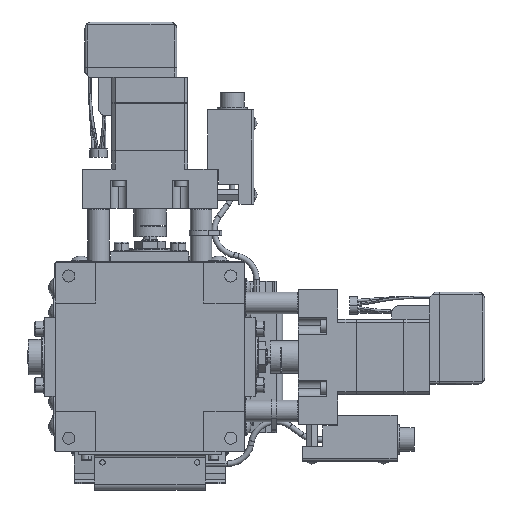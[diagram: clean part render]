
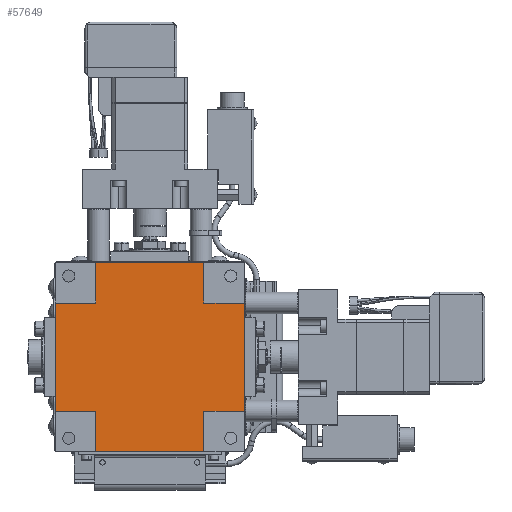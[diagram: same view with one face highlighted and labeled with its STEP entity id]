
A CAD part, front view. The second image highlights one B-rep face of the part: STEP entity #57649.
In plain terms, the highlighted planar face has unit normal (0, -1, 0).
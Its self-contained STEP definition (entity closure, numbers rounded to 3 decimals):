
#1156 = CARTESIAN_POINT ( 'NONE',  ( 35., 0.3, 20. ) ) ;
#1580 = VECTOR ( 'NONE', #33116, 1000. ) ;
#1645 = VECTOR ( 'NONE', #39755, 1000. ) ;
#2014 = VECTOR ( 'NONE', #33972, 1000. ) ;
#2263 = VERTEX_POINT ( 'NONE', #40069 ) ;
#3829 = AXIS2_PLACEMENT_3D ( 'NONE', #49785, #49003, #13114 ) ;
#4906 = DIRECTION ( 'NONE',  ( 1., 0., 0. ) ) ;
#5906 = VERTEX_POINT ( 'NONE', #1156 ) ;
#6582 = VERTEX_POINT ( 'NONE', #68687 ) ;
#6895 = CARTESIAN_POINT ( 'NONE',  ( 20., 0.3, -35. ) ) ;
#7094 = PLANE ( 'NONE',  #3829 ) ;
#7273 = EDGE_CURVE ( 'NONE', #2263, #44380, #61184, .T. ) ;
#8102 = EDGE_CURVE ( 'NONE', #47029, #77057, #47793, .T. ) ;
#9464 = CARTESIAN_POINT ( 'NONE',  ( -20., 0.3, 20. ) ) ;
#9603 = ORIENTED_EDGE ( 'NONE', *, *, #66793, .T. ) ;
#9952 = LINE ( 'NONE', #69222, #1580 ) ;
#10235 = ORIENTED_EDGE ( 'NONE', *, *, #36774, .T. ) ;
#12286 = DIRECTION ( 'NONE',  ( 0., 0., -1. ) ) ;
#12437 = ORIENTED_EDGE ( 'NONE', *, *, #25958, .T. ) ;
#12822 = LINE ( 'NONE', #68831, #59621 ) ;
#13114 = DIRECTION ( 'NONE',  ( -1., 0., 0. ) ) ;
#13618 = DIRECTION ( 'NONE',  ( 1., 0., 0. ) ) ;
#15701 = CARTESIAN_POINT ( 'NONE',  ( -35., 0.3, -20. ) ) ;
#15863 = CARTESIAN_POINT ( 'NONE',  ( 35., 0.3, -20. ) ) ;
#17541 = VECTOR ( 'NONE', #12286, 1000. ) ;
#18352 = LINE ( 'NONE', #28195, #27747 ) ;
#19928 = ORIENTED_EDGE ( 'NONE', *, *, #64306, .T. ) ;
#20743 = VECTOR ( 'NONE', #70317, 1000. ) ;
#21645 = CARTESIAN_POINT ( 'NONE',  ( -35., 0.3, 20. ) ) ;
#22622 = CARTESIAN_POINT ( 'NONE',  ( -20., 0.3, -35. ) ) ;
#22629 = EDGE_CURVE ( 'NONE', #59814, #44302, #49814, .T. ) ;
#24592 = CARTESIAN_POINT ( 'NONE',  ( -20., 0.3, -35. ) ) ;
#24600 = DIRECTION ( 'NONE',  ( 0., 0., 1. ) ) ;
#24995 = EDGE_CURVE ( 'NONE', #77428, #2263, #44730, .T. ) ;
#25958 = EDGE_CURVE ( 'NONE', #26047, #47029, #12822, .T. ) ;
#26047 = VERTEX_POINT ( 'NONE', #9464 ) ;
#27265 = DIRECTION ( 'NONE',  ( -1., 0., 0. ) ) ;
#27747 = VECTOR ( 'NONE', #4906, 1000. ) ;
#28128 = CARTESIAN_POINT ( 'NONE',  ( -20., 0.3, 35. ) ) ;
#28195 = CARTESIAN_POINT ( 'NONE',  ( -35., 0.3, -20. ) ) ;
#30852 = DIRECTION ( 'NONE',  ( 1., 0., 0. ) ) ;
#30888 = CARTESIAN_POINT ( 'NONE',  ( -35., 0.3, 20. ) ) ;
#30986 = EDGE_CURVE ( 'NONE', #54976, #6582, #44282, .T. ) ;
#32458 = ORIENTED_EDGE ( 'NONE', *, *, #66934, .T. ) ;
#33116 = DIRECTION ( 'NONE',  ( -1., 0., 0. ) ) ;
#33972 = DIRECTION ( 'NONE',  ( 0., 0., -1. ) ) ;
#34731 = ORIENTED_EDGE ( 'NONE', *, *, #49769, .T. ) ;
#36774 = EDGE_CURVE ( 'NONE', #77057, #59814, #18352, .T. ) ;
#39755 = DIRECTION ( 'NONE',  ( 0., 0., 1. ) ) ;
#39910 = ORIENTED_EDGE ( 'NONE', *, *, #24995, .T. ) ;
#40069 = CARTESIAN_POINT ( 'NONE',  ( 20., 0.3, 35. ) ) ;
#43641 = CARTESIAN_POINT ( 'NONE',  ( 20., 0.3, 20. ) ) ;
#44282 = LINE ( 'NONE', #49327, #77234 ) ;
#44302 = VERTEX_POINT ( 'NONE', #22622 ) ;
#44380 = VERTEX_POINT ( 'NONE', #28128 ) ;
#44730 = LINE ( 'NONE', #63775, #1645 ) ;
#45555 = CARTESIAN_POINT ( 'NONE',  ( -20., 0.3, -35. ) ) ;
#45960 = CARTESIAN_POINT ( 'NONE',  ( -20., 0.3, -20. ) ) ;
#45995 = LINE ( 'NONE', #61140, #56296 ) ;
#47029 = VERTEX_POINT ( 'NONE', #21645 ) ;
#47793 = LINE ( 'NONE', #30888, #59114 ) ;
#48176 = CARTESIAN_POINT ( 'NONE',  ( -20., 0.3, 20. ) ) ;
#49003 = DIRECTION ( 'NONE',  ( 0., 1., 0. ) ) ;
#49259 = ORIENTED_EDGE ( 'NONE', *, *, #77541, .T. ) ;
#49327 = CARTESIAN_POINT ( 'NONE',  ( 20., 0.3, -35. ) ) ;
#49769 = EDGE_CURVE ( 'NONE', #44302, #54976, #65248, .T. ) ;
#49785 = CARTESIAN_POINT ( 'NONE',  ( 0., 0.3, 0. ) ) ;
#49814 = LINE ( 'NONE', #45555, #2014 ) ;
#54505 = CARTESIAN_POINT ( 'NONE',  ( 35., 0.3, 20. ) ) ;
#54976 = VERTEX_POINT ( 'NONE', #6895 ) ;
#56296 = VECTOR ( 'NONE', #13618, 1000. ) ;
#57649 = ADVANCED_FACE ( 'NONE', ( #65777 ), #7094, .F. ) ;
#57897 = VECTOR ( 'NONE', #24600, 1000. ) ;
#59114 = VECTOR ( 'NONE', #61124, 1000. ) ;
#59621 = VECTOR ( 'NONE', #27265, 1000. ) ;
#59651 = ORIENTED_EDGE ( 'NONE', *, *, #30986, .T. ) ;
#59814 = VERTEX_POINT ( 'NONE', #45960 ) ;
#61124 = DIRECTION ( 'NONE',  ( 0., 0., -1. ) ) ;
#61140 = CARTESIAN_POINT ( 'NONE',  ( 20., 0.3, -20. ) ) ;
#61184 = LINE ( 'NONE', #76563, #20743 ) ;
#63601 = LINE ( 'NONE', #48176, #17541 ) ;
#63775 = CARTESIAN_POINT ( 'NONE',  ( 20., 0.3, 20. ) ) ;
#64306 = EDGE_CURVE ( 'NONE', #6582, #77531, #45995, .T. ) ;
#64327 = VECTOR ( 'NONE', #30852, 1000. ) ;
#65248 = LINE ( 'NONE', #24592, #64327 ) ;
#65777 = FACE_OUTER_BOUND ( 'NONE', #67115, .T. ) ;
#66793 = EDGE_CURVE ( 'NONE', #44380, #26047, #63601, .T. ) ;
#66934 = EDGE_CURVE ( 'NONE', #77531, #5906, #73907, .T. ) ;
#67115 = EDGE_LOOP ( 'NONE', ( #19928, #32458, #49259, #39910, #74992, #9603, #12437, #68024, #10235, #76284, #34731, #59651 ) ) ;
#68024 = ORIENTED_EDGE ( 'NONE', *, *, #8102, .T. ) ;
#68687 = CARTESIAN_POINT ( 'NONE',  ( 20., 0.3, -20. ) ) ;
#68831 = CARTESIAN_POINT ( 'NONE',  ( -35., 0.3, 20. ) ) ;
#69222 = CARTESIAN_POINT ( 'NONE',  ( 20., 0.3, 20. ) ) ;
#70317 = DIRECTION ( 'NONE',  ( -1., 0., 0. ) ) ;
#73265 = DIRECTION ( 'NONE',  ( 0., 0., 1. ) ) ;
#73907 = LINE ( 'NONE', #54505, #57897 ) ;
#74992 = ORIENTED_EDGE ( 'NONE', *, *, #7273, .T. ) ;
#76284 = ORIENTED_EDGE ( 'NONE', *, *, #22629, .T. ) ;
#76563 = CARTESIAN_POINT ( 'NONE',  ( -20., 0.3, 35. ) ) ;
#77057 = VERTEX_POINT ( 'NONE', #15701 ) ;
#77234 = VECTOR ( 'NONE', #73265, 1000. ) ;
#77428 = VERTEX_POINT ( 'NONE', #43641 ) ;
#77531 = VERTEX_POINT ( 'NONE', #15863 ) ;
#77541 = EDGE_CURVE ( 'NONE', #5906, #77428, #9952, .T. ) ;
